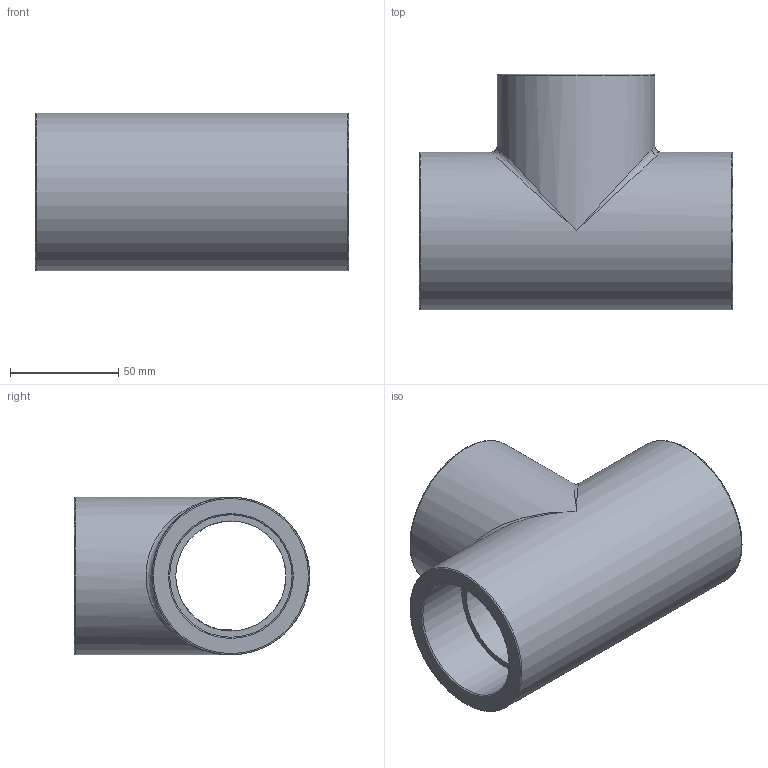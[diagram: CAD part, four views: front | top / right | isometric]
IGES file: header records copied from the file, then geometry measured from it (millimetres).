
Global section: file name: 050401020.ipt; native system: Autodesk Inventor 2015; preprocessor: unknown; author: KIM; date: 20171207.164515; units: millimetre
Bounding box: 145 x 109 x 73 mm (x, y, z)
Volume: 343417.9 mm3; surface area: 76321.6 mm2
Topology: 1 solids, 1 shells, 20 faces, 59 edges, 40 vertices
Faces by surface type: revolution 10, plane 6, bspline 2, cylinder 2
Full cylindrical faces by diameter (mm): 73 x2
